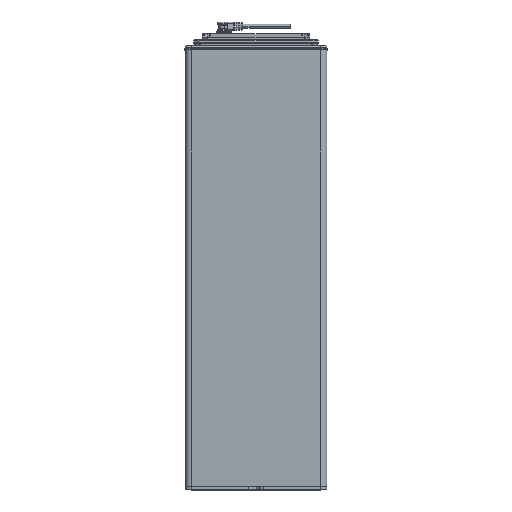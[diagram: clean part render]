
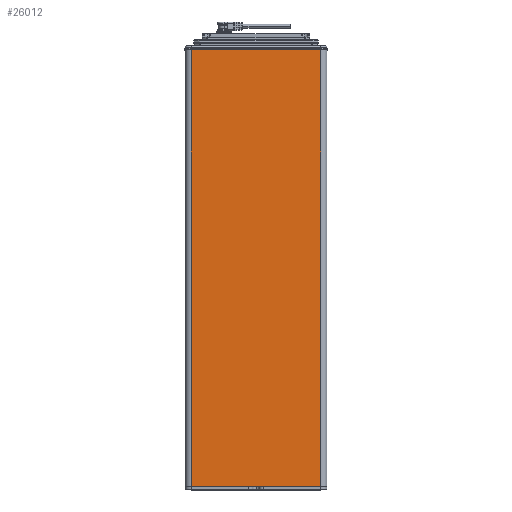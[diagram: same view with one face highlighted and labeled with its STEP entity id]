
A CAD part, top view. The second image highlights one B-rep face of the part: STEP entity #26012.
In plain terms, the highlighted planar face has unit normal (0, 0, 1).
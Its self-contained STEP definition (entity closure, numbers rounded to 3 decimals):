
#4974 = DIRECTION ( 'NONE',  ( 1., 0., 0. ) ) ;
#5440 = DIRECTION ( 'NONE',  ( 1., 0., 0. ) ) ;
#5598 = DIRECTION ( 'NONE',  ( 0., 0., 1. ) ) ;
#8251 = VERTEX_POINT ( 'NONE', #81795 ) ;
#11814 = EDGE_CURVE ( 'NONE', #8251, #40616, #17670, .T. ) ;
#11919 = LINE ( 'NONE', #44210, #74898 ) ;
#15401 = CARTESIAN_POINT ( 'NONE',  ( 80.7, 361., 75.35 ) ) ;
#17199 = DIRECTION ( 'NONE',  ( 0., -1., 0. ) ) ;
#17670 = LINE ( 'NONE', #77457, #50768 ) ;
#18135 = AXIS2_PLACEMENT_3D ( 'NONE', #52245, #5598, #32607 ) ;
#23870 = EDGE_CURVE ( 'NONE', #28195, #40616, #50131, .T. ) ;
#25656 = ORIENTED_EDGE ( 'NONE', *, *, #39863, .T. ) ;
#26012 = ADVANCED_FACE ( 'NONE', ( #71914 ), #72372, .T. ) ;
#28195 = VERTEX_POINT ( 'NONE', #15401 ) ;
#32607 = DIRECTION ( 'NONE',  ( 1., 0., 0. ) ) ;
#32632 = ORIENTED_EDGE ( 'NONE', *, *, #23870, .T. ) ;
#33656 = ORIENTED_EDGE ( 'NONE', *, *, #50327, .T. ) ;
#37266 = LINE ( 'NONE', #78690, #53662 ) ;
#39863 = EDGE_CURVE ( 'NONE', #64149, #28195, #37266, .T. ) ;
#40616 = VERTEX_POINT ( 'NONE', #68966 ) ;
#44210 = CARTESIAN_POINT ( 'NONE',  ( -80.7, 350.08, 75.35 ) ) ;
#50131 = LINE ( 'NONE', #76773, #66582 ) ;
#50327 = EDGE_CURVE ( 'NONE', #8251, #64149, #11919, .T. ) ;
#50768 = VECTOR ( 'NONE', #5440, 1000. ) ;
#52245 = CARTESIAN_POINT ( 'NONE',  ( -83.928, 350.08, 75.35 ) ) ;
#53662 = VECTOR ( 'NONE', #4974, 1000. ) ;
#59819 = ORIENTED_EDGE ( 'NONE', *, *, #11814, .F. ) ;
#64149 = VERTEX_POINT ( 'NONE', #81081 ) ;
#66582 = VECTOR ( 'NONE', #70201, 1000. ) ;
#68966 = CARTESIAN_POINT ( 'NONE',  ( 80.7, 907., 75.35 ) ) ;
#70201 = DIRECTION ( 'NONE',  ( 0., 1., 0. ) ) ;
#71914 = FACE_OUTER_BOUND ( 'NONE', #83398, .T. ) ;
#72372 = PLANE ( 'NONE',  #18135 ) ;
#74898 = VECTOR ( 'NONE', #17199, 1000. ) ;
#76773 = CARTESIAN_POINT ( 'NONE',  ( 80.7, 350.08, 75.35 ) ) ;
#77457 = CARTESIAN_POINT ( 'NONE',  ( 92.248, 907., 75.35 ) ) ;
#78690 = CARTESIAN_POINT ( 'NONE',  ( -83.928, 361., 75.35 ) ) ;
#81081 = CARTESIAN_POINT ( 'NONE',  ( -80.7, 361., 75.35 ) ) ;
#81795 = CARTESIAN_POINT ( 'NONE',  ( -80.7, 907., 75.35 ) ) ;
#83398 = EDGE_LOOP ( 'NONE', ( #25656, #32632, #59819, #33656 ) ) ;
